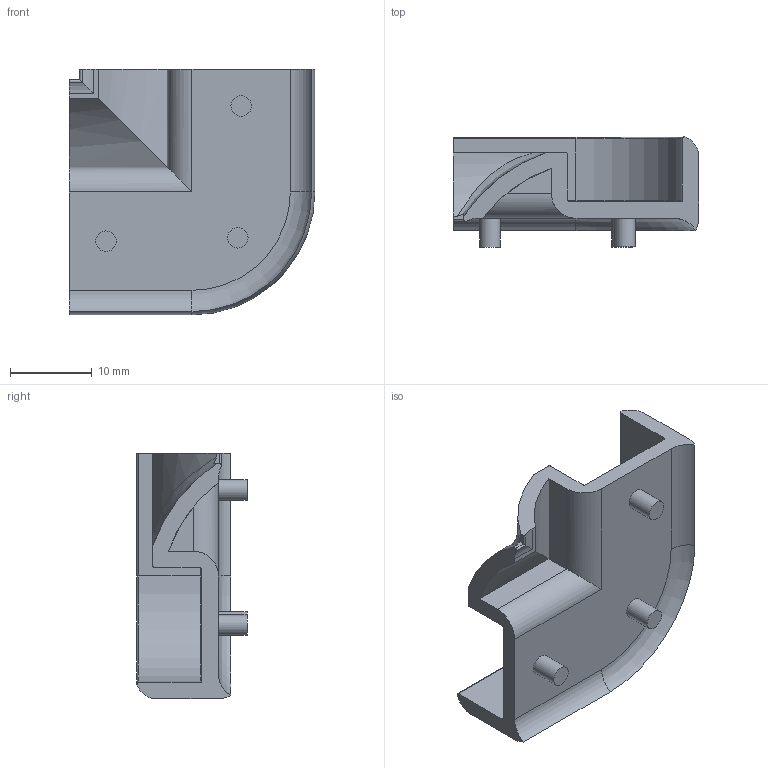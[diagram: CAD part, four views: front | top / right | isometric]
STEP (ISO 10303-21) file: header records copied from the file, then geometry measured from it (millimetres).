
FILE_DESCRIPTION (( 'STEP AP214' ), '1' );
FILE_NAME ('L15827.step', '2024-12-03T16:19:31', ( '' ), ( '' ), 'SwSTEP 2.0', 'SolidWorks 2023', '' );
FILE_SCHEMA (( 'AUTOMOTIVE_DESIGN' ));
Length unit declared in the file: millimetre
Products named in the file (1): L15827
Bounding box: 30 x 13.44 x 30 mm (x, y, z)
Volume: 2878.1 mm3; surface area: 3238.3 mm2
Topology: 1 solids, 1 shells, 60 faces, 143 edges, 88 vertices
Faces by surface type: cylinder 32, plane 19, torus 7, bspline 2
Full cylindrical faces by diameter (mm): 2.5 x3
Entity records: 1986 total; most frequent: CARTESIAN_POINT 574, DIRECTION 304, ORIENTED_EDGE 280, EDGE_CURVE 140, AXIS2_PLACEMENT_3D 117, VERTEX_POINT 88, LINE 70, VECTOR 70
